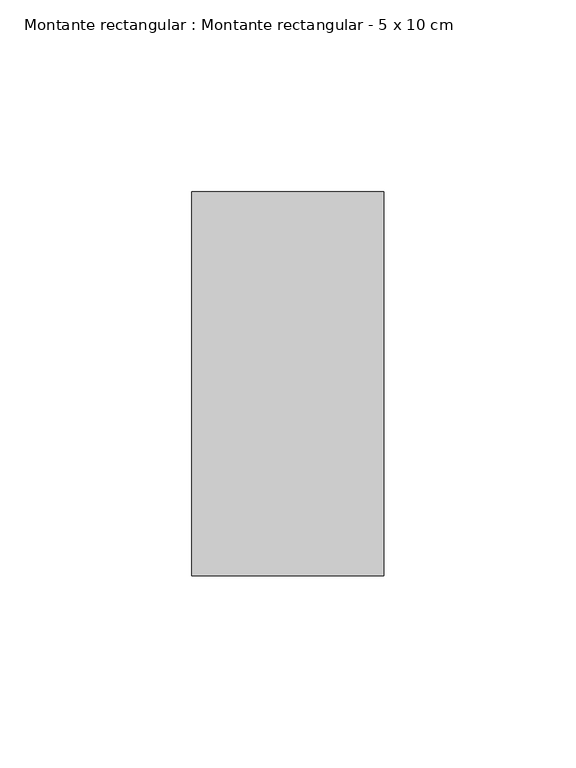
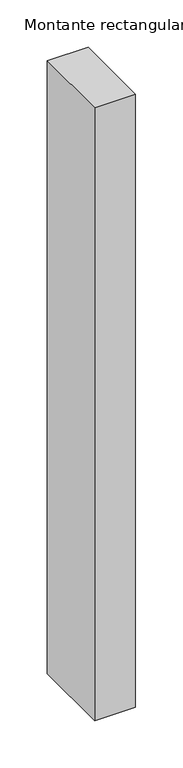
"""IFC4 building model written with IfcOpenShell, lengths in millimetres: member geometry, Montante rectangular : Montante rectangular - 5 x 10 cm."""

from ifc_helpers import new_model, si_unit, frame, origin, place, context, project, spatial, polyline, outline, extrude, source, transform, mapped, element, save


def montante_rectangular_montante_rectangular_5_x_10_cm_4f52c7b9(model_context):
    return source(origin(), model_context, "Body", "SweptSolid", [
        extrude(outline(polyline([(-50.0, -50.0), (-50.0, 50.0), (0.0, 50.0), (0.0, -50.0), (-50.0, -50.0)])), frame((0.0, 0.0, -791.6666667), z_axis=(0.0, 0.0, 1.0), x_axis=(1.0, 0.0, 0.0)), (0.0, 0.0, 1.0), 791.6666667),
    ])


if __name__ == "__main__":
    model = new_model("IFC4")
    model_context = context("Model", 3, world=origin())
    ifc_project = project(units=[si_unit("LENGTHUNIT", "METRE", prefix="MILLI")], contexts=[model_context])
    site = spatial("IfcSite", under=ifc_project)
    building = spatial("IfcBuilding", under=site)
    placement = place(None, origin())
    montante_rectangular_montante_rectangular_5_x_10_cm_shape = montante_rectangular_montante_rectangular_5_x_10_cm_4f52c7b9(model_context)
    element("IfcMember", 1, ObjectType="Montante rectangular : Montante rectangular - 5 x 10 cm", at=placement, inside=building, context=model_context, shape_type="MappedRepresentation", body=[
        mapped(montante_rectangular_montante_rectangular_5_x_10_cm_shape, transform((0.0, 0.0, 0.0), x_axis=(1.0, 0.0, 0.0), y_axis=(0.0, 1.0, 0.0), z_axis=(0.0, 0.0, 1.0))),
    ])
    save(model, "model.ifc")
